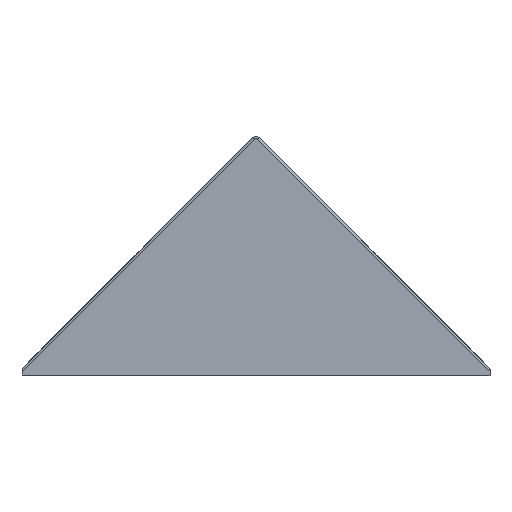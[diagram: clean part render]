
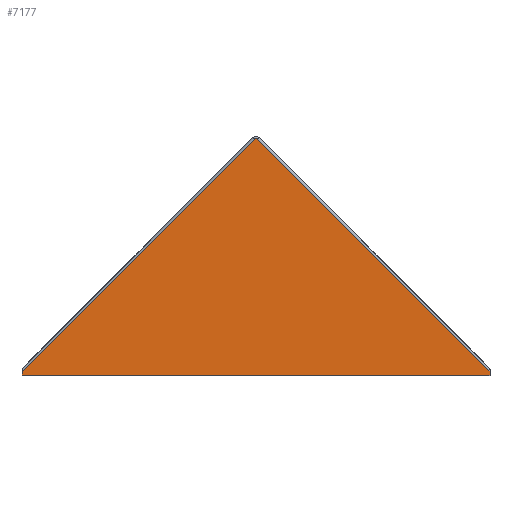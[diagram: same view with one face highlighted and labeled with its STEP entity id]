
A CAD part, top view. The second image highlights one B-rep face of the part: STEP entity #7177.
In plain terms, the highlighted planar face has unit normal (0, 0, 1).
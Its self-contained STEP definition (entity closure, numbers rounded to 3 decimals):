
#16 = FACE_OUTER_BOUND ( 'NONE', #8869, .T. ) ;
#27 = ORIENTED_EDGE ( 'NONE', *, *, #4347, .T. ) ;
#296 = B_SPLINE_CURVE_WITH_KNOTS ( 'NONE', 3,
 ( #5609, #2007, #7839, #3455, #8555, #4184, #9290, #4917, #546, #5640, #1293, #6386, #2039, #7143, #2759, #7873, #3481, #306, #5390 ),
 .UNSPECIFIED., .F., .F.,
 ( 4, 1, 2, 2, 2, 2, 1, 1, 2, 2, 4 ),
 ( 0., 0.125, 0.187, 0.25, 0.375, 0.5, 0.625, 0.688, 0.719, 0.75, 1. ),
 .UNSPECIFIED. ) ;
#306 = CARTESIAN_POINT ( 'NONE',  ( -0.307, 53.617, 37. ) ) ;
#460 = VECTOR ( 'NONE', #1793, 1000. ) ;
#546 = CARTESIAN_POINT ( 'NONE',  ( 0.069, 53.714, 37. ) ) ;
#554 = CARTESIAN_POINT ( 'NONE',  ( -53.132, 0., 37. ) ) ;
#692 = LINE ( 'NONE', #1064, #460 ) ;
#1064 = CARTESIAN_POINT ( 'NONE',  ( 53.132, 1.5, 37. ) ) ;
#1084 = ORIENTED_EDGE ( 'NONE', *, *, #1276, .T. ) ;
#1145 = ORIENTED_EDGE ( 'NONE', *, *, #5312, .T. ) ;
#1245 = VECTOR ( 'NONE', #4950, 1000. ) ;
#1276 = EDGE_CURVE ( 'NONE', #6019, #2512, #1923, .T. ) ;
#1293 = CARTESIAN_POINT ( 'NONE',  ( -0.034, 53.717, 37. ) ) ;
#1790 = EDGE_CURVE ( 'NONE', #2512, #6807, #8512, .T. ) ;
#1793 = DIRECTION ( 'NONE',  ( 0., 1., 0. ) ) ;
#1923 = LINE ( 'NONE', #5911, #5544 ) ;
#2007 = CARTESIAN_POINT ( 'NONE',  ( 0.331, 53.593, 37. ) ) ;
#2039 = CARTESIAN_POINT ( 'NONE',  ( -0.142, 53.697, 37. ) ) ;
#2185 = DIRECTION ( 'NONE',  ( 1., 0., 0. ) ) ;
#2512 = VERTEX_POINT ( 'NONE', #5083 ) ;
#2759 = CARTESIAN_POINT ( 'NONE',  ( -0.182, 53.683, 37. ) ) ;
#3058 = AXIS2_PLACEMENT_3D ( 'NONE', #8624, #6541, #2185 ) ;
#3189 = LINE ( 'NONE', #554, #1245 ) ;
#3455 = CARTESIAN_POINT ( 'NONE',  ( 0.254, 53.648, 37. ) ) ;
#3481 = CARTESIAN_POINT ( 'NONE',  ( -0.255, 53.652, 37. ) ) ;
#3588 = VERTEX_POINT ( 'NONE', #4283 ) ;
#3910 = EDGE_CURVE ( 'NONE', #4218, #3588, #4441, .T. ) ;
#3958 = CARTESIAN_POINT ( 'NONE',  ( 53.132, 0.793, 37. ) ) ;
#4184 = CARTESIAN_POINT ( 'NONE',  ( 0.214, 53.669, 37. ) ) ;
#4218 = VERTEX_POINT ( 'NONE', #6679 ) ;
#4222 = CARTESIAN_POINT ( 'NONE',  ( 53.132, 0., 37. ) ) ;
#4283 = CARTESIAN_POINT ( 'NONE',  ( 0.354, 53.571, 37. ) ) ;
#4347 = EDGE_CURVE ( 'NONE', #3588, #6019, #296, .T. ) ;
#4441 = LINE ( 'NONE', #3958, #6141 ) ;
#4513 = ORIENTED_EDGE ( 'NONE', *, *, #3910, .T. ) ;
#4643 = PLANE ( 'NONE',  #3058 ) ;
#4917 = CARTESIAN_POINT ( 'NONE',  ( 0.136, 53.7, 37. ) ) ;
#4950 = DIRECTION ( 'NONE',  ( 1., 0., 0. ) ) ;
#5083 = CARTESIAN_POINT ( 'NONE',  ( -53.132, 0.793, 37. ) ) ;
#5312 = EDGE_CURVE ( 'NONE', #7655, #4218, #692, .T. ) ;
#5390 = CARTESIAN_POINT ( 'NONE',  ( -0.354, 53.571, 37. ) ) ;
#5544 = VECTOR ( 'NONE', #8858, 1000. ) ;
#5609 = CARTESIAN_POINT ( 'NONE',  ( 0.354, 53.571, 37. ) ) ;
#5640 = CARTESIAN_POINT ( 'NONE',  ( 0.034, 53.717, 37. ) ) ;
#5869 = CARTESIAN_POINT ( 'NONE',  ( -53.132, 54.632, 37. ) ) ;
#5911 = CARTESIAN_POINT ( 'NONE',  ( -0.354, 53.571, 37. ) ) ;
#6019 = VERTEX_POINT ( 'NONE', #6570 ) ;
#6141 = VECTOR ( 'NONE', #7622, 1000. ) ;
#6376 = CARTESIAN_POINT ( 'NONE',  ( -53.132, 0., 37. ) ) ;
#6386 = CARTESIAN_POINT ( 'NONE',  ( -0.084, 53.712, 37. ) ) ;
#6541 = DIRECTION ( 'NONE',  ( 0., 0., 1. ) ) ;
#6570 = CARTESIAN_POINT ( 'NONE',  ( -0.354, 53.571, 37. ) ) ;
#6583 = VECTOR ( 'NONE', #7375, 1000. ) ;
#6679 = CARTESIAN_POINT ( 'NONE',  ( 53.132, 0.793, 37. ) ) ;
#6807 = VERTEX_POINT ( 'NONE', #6376 ) ;
#7143 = CARTESIAN_POINT ( 'NONE',  ( -0.166, 53.689, 37. ) ) ;
#7177 = ADVANCED_FACE ( 'NONE', ( #16 ), #4643, .T. ) ;
#7281 = ORIENTED_EDGE ( 'NONE', *, *, #7650, .T. ) ;
#7375 = DIRECTION ( 'NONE',  ( 0., -1., 0. ) ) ;
#7622 = DIRECTION ( 'NONE',  ( -0.707, 0.707, 0. ) ) ;
#7650 = EDGE_CURVE ( 'NONE', #6807, #7655, #3189, .T. ) ;
#7655 = VERTEX_POINT ( 'NONE', #4222 ) ;
#7706 = ORIENTED_EDGE ( 'NONE', *, *, #1790, .T. ) ;
#7839 = CARTESIAN_POINT ( 'NONE',  ( 0.294, 53.623, 37. ) ) ;
#7873 = CARTESIAN_POINT ( 'NONE',  ( -0.192, 53.679, 37. ) ) ;
#8512 = LINE ( 'NONE', #5869, #6583 ) ;
#8555 = CARTESIAN_POINT ( 'NONE',  ( 0.227, 53.663, 37. ) ) ;
#8624 = CARTESIAN_POINT ( 'NONE',  ( 0., 54.632, 37. ) ) ;
#8858 = DIRECTION ( 'NONE',  ( -0.707, -0.707, 0. ) ) ;
#8869 = EDGE_LOOP ( 'NONE', ( #1145, #4513, #27, #1084, #7706, #7281 ) ) ;
#9290 = CARTESIAN_POINT ( 'NONE',  ( 0.168, 53.69, 37. ) ) ;
